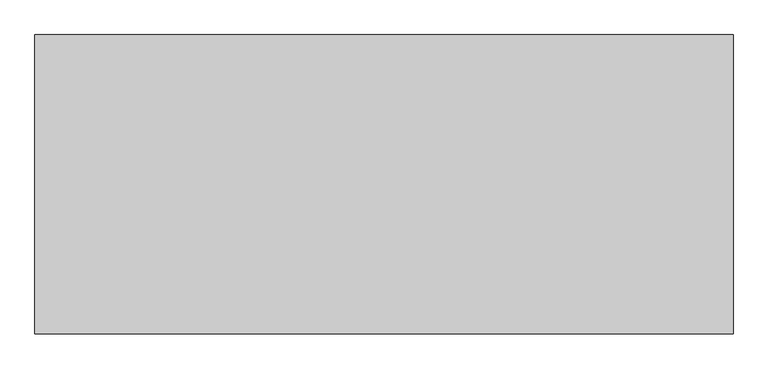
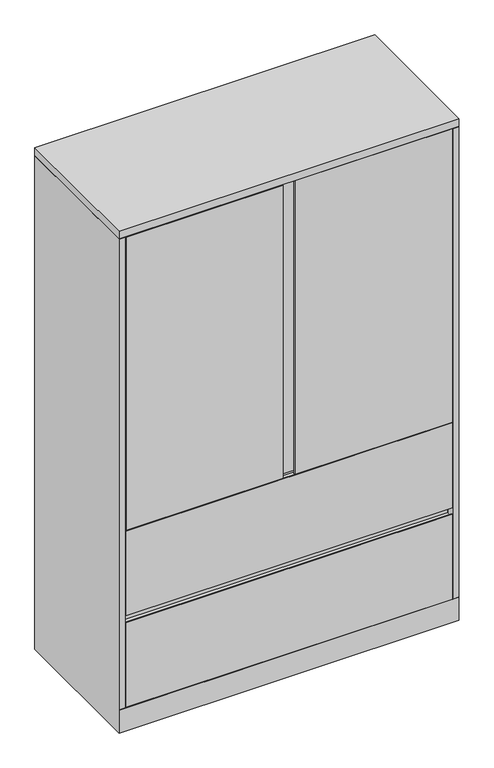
"""IFC4 building model written with IfcOpenShell, lengths in millimetres: furniture geometry, Steelcase - Universal Storage - Cabinet - Combination - Flush Steel : 65 1/2H - 2 Drawers - 18D x 42W."""

from ifc_helpers import new_model, si_unit, frame, origin, place, context, project, spatial, polyline, outline, extrude, faceted_brep, source, transform, mapped, element, save


def furniture_b82f5f7c(model_context):
    return source(origin(), model_context, "Body", "SolidModel", [
        extrude(outline(polyline([(21.8068168, -431.673866), (1045.972, -431.673866), (1045.972, -457.2), (552.45, -457.2), (552.45, -452.883482), (565.6189152, -452.883482), (565.6189152, -438.0238781), (514.35, -438.0238781), (514.35, -457.2), (21.8068168, -457.2), (21.8068168, -431.673866)])), frame((0.0, 0.0, 663.956), z_axis=(0.0, 0.0, 1.0), x_axis=(1.0, 0.0, 0.0)), (0.0, 0.0, 1.0), 972.82),
        extrude(outline(polyline([(1066.8, 0.0), (1066.8, -457.2), (0.0, -457.2), (0.0, 0.0), (1066.8, 0.0)])), frame((0.0, 0.0, 1638.2999516), z_axis=(0.0, 0.0, 1.0), x_axis=(1.0, 0.0, 0.0)), (0.0, 0.0, 1.0), 25.4000484),
        extrude(outline(polyline([(-457.2, 358.7750484), (-454.0242491, 358.7750484), (-454.0242491, 349.2500484), (-431.673866, 349.2500484), (-431.673866, 381.0), (-430.1498674, 381.0), (-430.1498674, 349.2500484), (-430.1498674, 77.724), (-457.2, 77.724), (-457.2, 358.7750484)])), frame((20.8280006, 0.0, 0.0), z_axis=(1.0, 0.0, 0.0), x_axis=(0.0, 1.0, 0.0)), (0.0, 0.0, 1.0), 1025.1439994),
        extrude(outline(polyline([(1041.4000242, -25.4000008), (1041.4000242, -430.1498674), (25.4000008, -430.1498674), (25.4000008, -25.4000008), (1041.4000242, -25.4000008)])), frame((0.0, 0.0, 358.7750484), z_axis=(0.0, 0.0, 1.0), x_axis=(1.0, 0.0, 0.0)), (0.0, 0.0, 1.0), 22.2249516),
        extrude(outline(polyline([(1041.4000242, -25.4000008), (1041.4000242, -430.1498674), (25.4000008, -430.1498674), (25.4000008, -25.4000008), (1041.4000242, -25.4000008)])), frame((0.0, 0.0, 1268.6030484), z_axis=(0.0, 0.0, 1.0), x_axis=(1.0, 0.0, 0.0)), (0.0, 0.0, 1.0), 22.2249516),
        extrude(outline(polyline([(1041.4000242, -25.4000008), (1041.4000242, -430.1498674), (25.4000008, -430.1498674), (25.4000008, -25.4000008), (1041.4000242, -25.4000008)])), frame((0.0, 0.0, 965.3270484), z_axis=(0.0, 0.0, 1.0), x_axis=(1.0, 0.0, 0.0)), (0.0, 0.0, 1.0), 22.2249516),
        extrude(outline(polyline([(-457.2, 662.0510484), (-454.0242491, 662.0510484), (-454.0242491, 652.5260484), (-431.673866, 652.5260484), (-431.673866, 684.276), (-430.1498674, 684.276), (-430.1498674, 652.5260484), (-430.1498674, 381.0), (-457.2, 381.0), (-457.2, 662.0510484)])), frame((20.8280006, 0.0, 0.0), z_axis=(1.0, 0.0, 0.0), x_axis=(0.0, 1.0, 0.0)), (0.0, 0.0, 1.0), 1025.1439994),
        extrude(outline(polyline([(1041.4000242, -25.4000008), (1041.4000242, -430.1498674), (25.4000008, -430.1498674), (25.4000008, -25.4000008), (1041.4000242, -25.4000008)])), frame((0.0, 0.0, 662.0510484), z_axis=(0.0, 0.0, 1.0), x_axis=(1.0, 0.0, 0.0)), (0.0, 0.0, 1.0), 22.2249516),
        faceted_brep([(1066.8, 0.0, 0.0), (1066.8, -457.2, 0.0), (0.0, -457.2, 0.0), (0.0, 0.0, 0.0), (0.0, 0.0, 1636.776), (1066.8, 0.0, 1636.776), (0.0, -457.2, 76.2), (0.0, -457.2, 77.724), (0.0, -457.2, 1636.776), (1066.8, -457.2, 76.2), (1066.8, -457.2, 1636.776), (1066.8, -457.2, 77.724), (1041.4000242, -25.4000008, 1636.776), (1041.4000242, -430.1498674, 1636.776), (1045.972, -430.1498674, 1636.776), (1045.972, -431.6738781, 1636.776), (1047.496, -431.6738781, 1636.776), (1047.496, -457.2, 1636.776), (19.304, -457.2, 1636.776), (19.304, -431.673866, 1636.776), (20.8280006, -431.673866, 1636.776), (20.8280006, -430.1498674, 1636.776), (25.4000008, -430.1498674, 1636.776), (25.4000008, -25.4000008, 1636.776), (19.304, -457.2, 77.724), (19.304, -437.896, 77.724), (1047.496, -457.2, 77.724), (1047.496, -437.7698418, 77.724), (1041.4000242, -25.4000008, 77.724), (1041.4000242, -430.1498674, 77.724), (1045.972, -430.1498674, 77.724), (1045.972, -431.6738781, 77.724), (1047.496, -431.6738781, 77.724), (19.304, -431.673866, 77.724), (20.8280006, -431.673866, 77.724), (20.8280006, -430.1498674, 77.724), (25.4000008, -430.1498674, 77.724), (25.4000008, -25.4000008, 77.724), (25.526134, -431.673866, 77.724), (1041.4000242, -431.673866, 77.724)], [[[0, 1, 2, 3]], [[0, 3, 4, 5]], [[4, 3, 2, 6, 7, 8]], [[2, 1, 9, 6]], [[1, 0, 5, 10, 11, 9]], [[12, 13, 14, 15, 16, 17, 10, 5, 4, 8, 18, 19, 20, 21, 22, 23]], [[24, 7, 25]], [[11, 26, 27]], [[13, 12, 28, 29]], [[14, 13, 29, 30]], [[15, 14, 30, 31]], [[16, 15, 31, 32]], [[17, 16, 32, 27, 26]], [[10, 17, 26, 11]], [[18, 8, 7, 24]], [[19, 18, 24, 25, 33]], [[20, 19, 33, 34]], [[21, 20, 34, 35]], [[22, 21, 35, 36]], [[23, 22, 36, 37]], [[12, 23, 37, 28]], [[38, 39, 27, 32, 31, 30, 29, 28, 37, 36, 35, 34, 33, 25]], [[7, 6, 38, 25]], [[39, 38, 6, 9]], [[39, 9, 11, 27]]]),
    ])


if __name__ == "__main__":
    model = new_model("IFC4")
    model_context = context("Model", 3, world=origin())
    ifc_project = project(units=[si_unit("LENGTHUNIT", "METRE", prefix="MILLI")], contexts=[model_context])
    site = spatial("IfcSite", under=ifc_project)
    building = spatial("IfcBuilding", under=site)
    placement = place(None, origin())
    furniture_shape = furniture_b82f5f7c(model_context)
    element("IfcFurniture", 1, ObjectType="Steelcase - Universal Storage - Cabinet - Combination - Flush Steel : 65 1/2H - 2 Drawers - 18D x 42W", at=placement, inside=building, context=model_context, shape_type="MappedRepresentation", body=[
        mapped(furniture_shape, transform((0.0, 0.0, 0.0), x_axis=(1.0, 0.0, 0.0), y_axis=(0.0, 1.0, 0.0), z_axis=(0.0, 0.0, 1.0))),
    ])
    save(model, "model.ifc")
